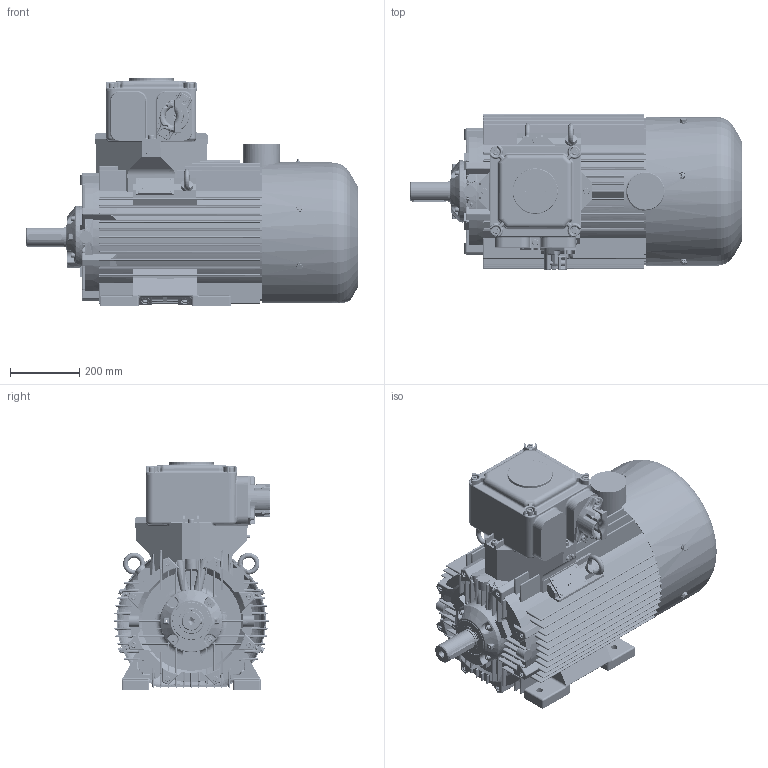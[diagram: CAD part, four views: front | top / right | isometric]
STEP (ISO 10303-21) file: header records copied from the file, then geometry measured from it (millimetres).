
FILE_DESCRIPTION(/* description */ ('Unknown'),/* implementation_level */ '2;1');
FILE_NAME(/* name */ 'EcSTe200L(2-8)-(IE2-3) - wykonwnie OUTSIDE !',/* time_stamp */ '2021-12-22T12:09:08+01:00',/* author */ ('Unknown'),/* organization */ ('Unknown'),/* preprocessor_version */ 'ST-DEVELOPER v16.7',/* originating_system */ 'DEX',/* authorisation */ $);
FILE_SCHEMA (('AUTOMOTIVE_DESIGN {1 0 10303 214 3 1 1}'));
Products named in the file (1): EcSTe200L(2-8)-(IE2-3) - wykonwnie OUTSIDE !
Bounding box: 960.63 x 452 x 660.53 mm (x, y, z)
Volume: 25107360.7 mm3; surface area: 6359170.3 mm2
Topology: 145 solids, 147 shells, 8088 faces, 21213 edges, 13555 vertices
Faces by surface type: plane 4612, cylinder 1906, cone 523, torus 492, bspline 411, sphere 144
Full cylindrical faces by diameter (mm): 1.2 x4, 1.6 x2, 2.013 x1, 2.5 x6, 3 x4, 3.1 x4, 3.2 x2, 3.4 x4, 4.773 x2, 4.917 x4, 5 x3, 5.35 x2, 6 x6, 6.2 x3, 6.4 x2, 6.466 x4, 6.5 x2, 6.647 x4, 8 x14, 8.16 x24, 8.376 x16, 8.5 x4, 8.8 x1, 8.917 x3, 9 x4, 9.853 x9, 10 x53, 10.106 x9, 10.5 x4, 11 x24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
Entity records: 283405 total; most frequent: CARTESIAN_POINT 74428, ORIENTED_EDGE 39702, DIRECTION 38363, EDGE_CURVE 19851, VERTEX_POINT 13222, AXIS2_PLACEMENT_3D 12926, LINE 12511, VECTOR 12511
